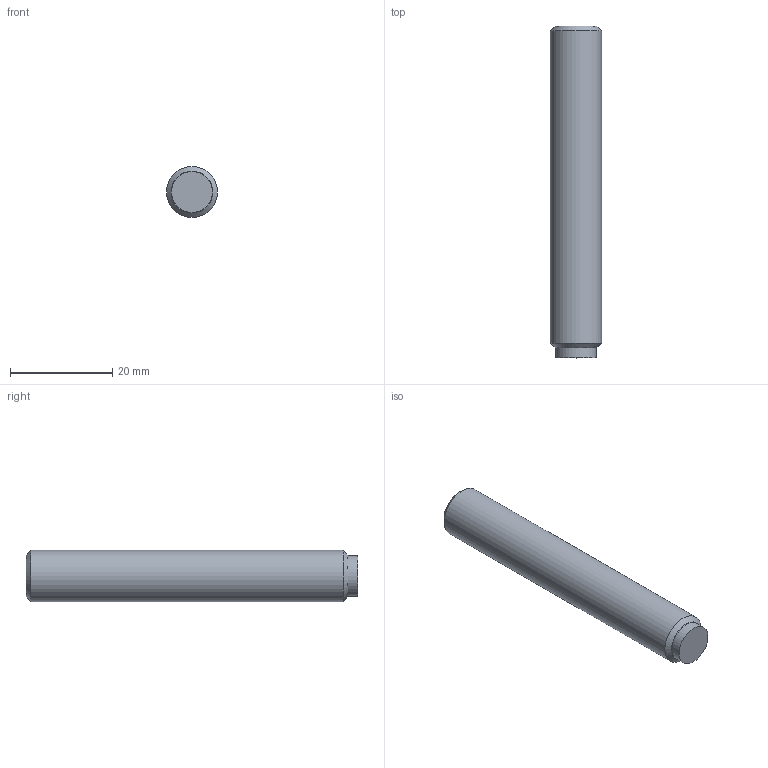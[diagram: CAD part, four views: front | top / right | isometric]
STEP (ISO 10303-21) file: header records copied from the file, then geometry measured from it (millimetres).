
FILE_DESCRIPTION( ( 'STEP AP203' ), '1' );
FILE_NAME( 'C:/Temp/Ganter_Step_05_03_2020/data/3_2/gn913_3/Grub screw GN 913.3-M10-63-MS.stp', '2020-03-13T05:35:53', ( 'License CC BY-ND 4.0' ), ( 'CADENAS' ), ' ', 'PARTsolutions', ' ' );
FILE_SCHEMA( ( 'CONFIG_CONTROL_DESIGN' ) );
Length unit declared in the file: millimetre
Products named in the file (1): _Grub screw GN 913.3-M10-63-MS
Bounding box: 10 x 65 x 10 mm (x, y, z)
Volume: 4893.7 mm3; surface area: 2254.4 mm2
Topology: 1 solids, 1 shells, 14 faces, 28 edges, 18 vertices
Faces by surface type: plane 10, cylinder 2, cone 2
Full cylindrical faces by diameter (mm): 8 x1, 10 x1
Entity records: 386 total; most frequent: DIRECTION 60, CARTESIAN_POINT 57, ORIENTED_EDGE 48, EDGE_CURVE 24, AXIS2_PLACEMENT_3D 21, EDGE_LOOP 20, VERTEX_POINT 18, LINE 18
